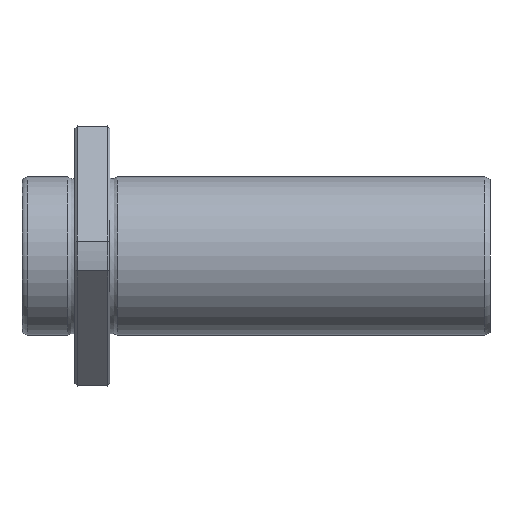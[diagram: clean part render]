
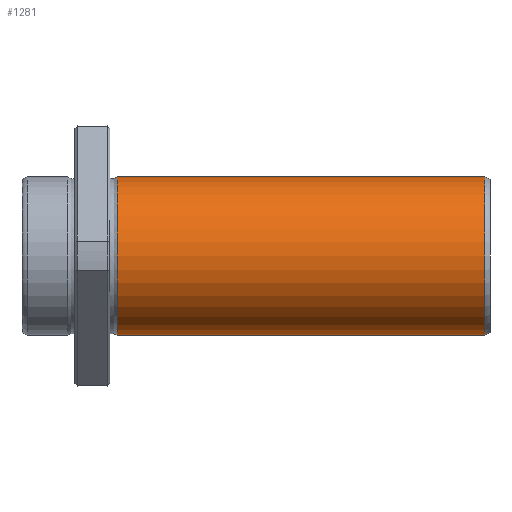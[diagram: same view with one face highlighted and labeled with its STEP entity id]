
A CAD part, front view. The second image highlights one B-rep face of the part: STEP entity #1281.
In plain terms, the highlighted cylindrical face has radius 22.5 mm (diameter 45 mm), a full revolution.
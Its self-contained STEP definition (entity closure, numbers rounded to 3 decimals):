
#1247=CARTESIAN_POINT('',(131.502,0.0,22.5));
#1248=VERTEX_POINT('',#1247);
#1249=CARTESIAN_POINT('',(131.502,0.0,0.0));
#1250=DIRECTION('',(-1.0,0.0,0.0));
#1251=DIRECTION('',(0.0,0.0,1.0));
#1252=AXIS2_PLACEMENT_3D('',#1249,#1250,#1251);
#1253=CIRCLE('',#1252,22.5);
#1254=EDGE_CURVE('',#1248,#1248,#1253,.T.);
#1262=CARTESIAN_POINT('',(79.262,0.0,0.0));
#1263=DIRECTION('',(-1.0,0.0,0.0));
#1264=DIRECTION('',(0.0,0.0,1.0));
#1265=AXIS2_PLACEMENT_3D('',#1262,#1263,#1264);
#1266=CYLINDRICAL_SURFACE('',#1265,22.5);
#1267=CARTESIAN_POINT('',(27.023,0.0,22.5));
#1268=VERTEX_POINT('',#1267);
#1269=CARTESIAN_POINT('',(27.023,0.0,0.0));
#1270=DIRECTION('',(-1.0,0.0,0.0));
#1271=DIRECTION('',(0.0,0.0,1.0));
#1272=AXIS2_PLACEMENT_3D('',#1269,#1270,#1271);
#1273=CIRCLE('',#1272,22.5);
#1274=EDGE_CURVE('',#1268,#1268,#1273,.T.);
#1275=ORIENTED_EDGE('',*,*,#1274,.F.);
#1276=EDGE_LOOP('',(#1275));
#1277=FACE_OUTER_BOUND('',#1276,.T.);
#1278=ORIENTED_EDGE('',*,*,#1254,.T.);
#1279=EDGE_LOOP('',(#1278));
#1280=FACE_BOUND('',#1279,.T.);
#1281=ADVANCED_FACE('',(#1277,#1280),#1266,.T.);
